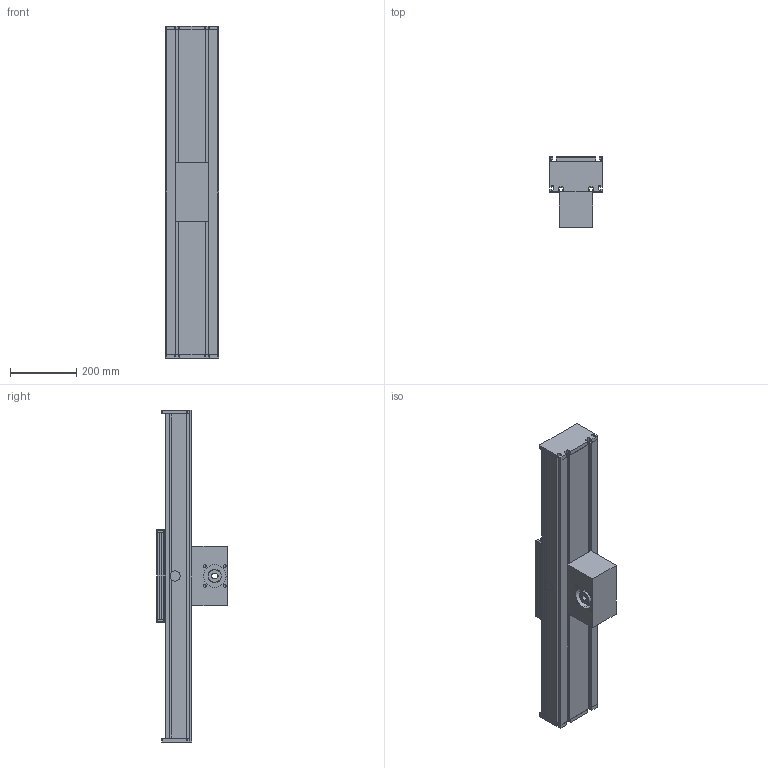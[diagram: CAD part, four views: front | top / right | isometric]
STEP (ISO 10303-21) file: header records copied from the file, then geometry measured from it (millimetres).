
FILE_DESCRIPTION (( 'STEP AP214' ), '1' );
FILE_NAME ('DSZS160.STEP', '2022-07-22T10:26:14', ( '' ), ( '' ), 'SwSTEP 2.0', 'SolidWorks 2020', '' );
FILE_SCHEMA (( 'AUTOMOTIVE_DESIGN' ));
Length unit declared in the file: millimetre
Products named in the file (5): profile^DSZS160_standard; carriage^DSZS160_carriage version 0 (1); end plate^DSZS160_standard; timing belt reverse unit^DSZS160_coupling claw pos.1; DSZS160
Assembly tree (5 placements, depth 2):
  DSZS160
    profile^DSZS160_standard
    carriage^DSZS160_carriage version 0 (1)
    timing belt reverse unit^DSZS160_coupling claw pos.1
    end plate^DSZS160_standard  x2
Bounding box: 160.2 x 213 x 1000 mm (x, y, z)
Volume: 9874895.8 mm3; surface area: 1801619.6 mm2
Topology: 11 solids, 11 shells, 393 faces, 1059 edges, 692 vertices
Faces by surface type: plane 285, cylinder 98, sphere 8, cone 2
Entity records: 12033 total; most frequent: CARTESIAN_POINT 1962, ORIENTED_EDGE 1910, DIRECTION 1869, EDGE_CURVE 955, VECTOR 767, LINE 767, VERTEX_POINT 628, AXIS2_PLACEMENT_3D 551
